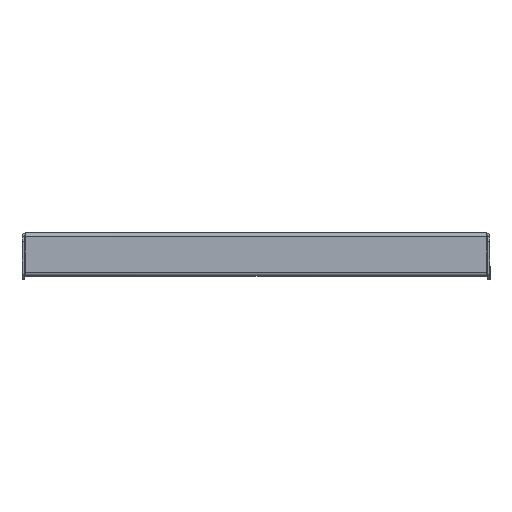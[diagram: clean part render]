
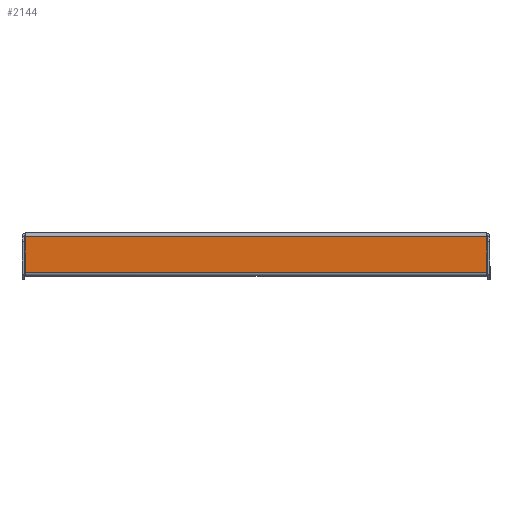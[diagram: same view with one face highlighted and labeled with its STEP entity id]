
A CAD part, left-side view. The second image highlights one B-rep face of the part: STEP entity #2144.
In plain terms, the highlighted planar face has unit normal (-1, 0, 0).
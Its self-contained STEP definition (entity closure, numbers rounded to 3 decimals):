
#218 = DIRECTION ( 'NONE',  ( 0., -1., 0. ) ) ;
#290 = ORIENTED_EDGE ( 'NONE', *, *, #2671, .T. ) ;
#332 = DIRECTION ( 'NONE',  ( 1., 0., 0. ) ) ;
#387 = CARTESIAN_POINT ( 'NONE',  ( -262.2, -239.293, -1.5 ) ) ;
#1481 = ORIENTED_EDGE ( 'NONE', *, *, #17077, .F. ) ;
#1840 = FACE_OUTER_BOUND ( 'NONE', #4492, .T. ) ;
#2144 = ADVANCED_FACE ( 'NONE', ( #1840 ), #8625, .F. ) ;
#2234 = AXIS2_PLACEMENT_3D ( 'NONE', #4282, #332, #5963 ) ;
#2671 = EDGE_CURVE ( 'NONE', #7700, #4643, #17369, .T. ) ;
#2860 = VECTOR ( 'NONE', #218, 1000. ) ;
#3198 = EDGE_CURVE ( 'NONE', #4643, #13665, #10296, .T. ) ;
#4027 = CARTESIAN_POINT ( 'NONE',  ( -262.2, -240.5, -1.5 ) ) ;
#4282 = CARTESIAN_POINT ( 'NONE',  ( -262.2, 0., 0. ) ) ;
#4335 = ORIENTED_EDGE ( 'NONE', *, *, #10558, .F. ) ;
#4492 = EDGE_LOOP ( 'NONE', ( #17585, #4335, #1481, #290 ) ) ;
#4598 = DIRECTION ( 'NONE',  ( 0., 0., -1. ) ) ;
#4643 = VERTEX_POINT ( 'NONE', #6487 ) ;
#5331 = LINE ( 'NONE', #4027, #7309 ) ;
#5963 = DIRECTION ( 'NONE',  ( 0., 0., -1. ) ) ;
#6487 = CARTESIAN_POINT ( 'NONE',  ( -262.2, 239.293, -38.5 ) ) ;
#7309 = VECTOR ( 'NONE', #18478, 1000. ) ;
#7700 = VERTEX_POINT ( 'NONE', #8100 ) ;
#8100 = CARTESIAN_POINT ( 'NONE',  ( -262.2, 239.293, -1.5 ) ) ;
#8625 = PLANE ( 'NONE',  #2234 ) ;
#8879 = VECTOR ( 'NONE', #4598, 1000. ) ;
#9573 = VERTEX_POINT ( 'NONE', #387 ) ;
#9868 = LINE ( 'NONE', #14079, #17671 ) ;
#10296 = LINE ( 'NONE', #14326, #2860 ) ;
#10558 = EDGE_CURVE ( 'NONE', #9573, #13665, #9868, .T. ) ;
#12401 = CARTESIAN_POINT ( 'NONE',  ( -262.2, -239.293, -38.5 ) ) ;
#12630 = DIRECTION ( 'NONE',  ( 0., 0., -1. ) ) ;
#13338 = CARTESIAN_POINT ( 'NONE',  ( -262.2, 239.293, 0. ) ) ;
#13665 = VERTEX_POINT ( 'NONE', #12401 ) ;
#14079 = CARTESIAN_POINT ( 'NONE',  ( -262.2, -239.293, 0. ) ) ;
#14326 = CARTESIAN_POINT ( 'NONE',  ( -262.2, 239.293, -38.5 ) ) ;
#17077 = EDGE_CURVE ( 'NONE', #7700, #9573, #5331, .T. ) ;
#17369 = LINE ( 'NONE', #13338, #8879 ) ;
#17585 = ORIENTED_EDGE ( 'NONE', *, *, #3198, .T. ) ;
#17671 = VECTOR ( 'NONE', #12630, 1000. ) ;
#18478 = DIRECTION ( 'NONE',  ( 0., -1., 0. ) ) ;
